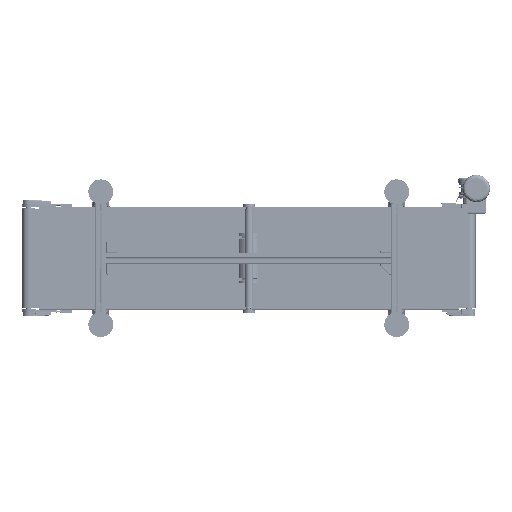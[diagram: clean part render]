
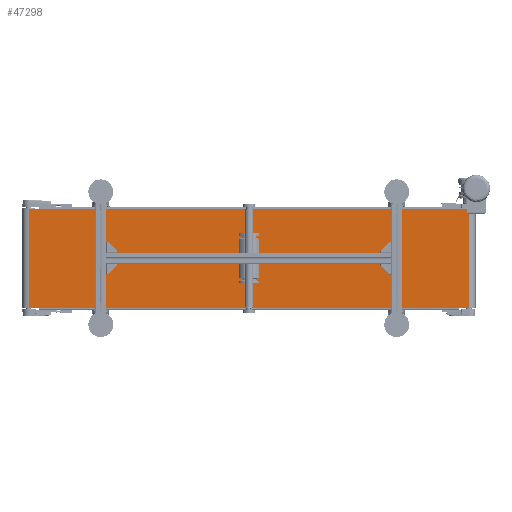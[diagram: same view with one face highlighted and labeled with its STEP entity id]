
A CAD part, front view. The second image highlights one B-rep face of the part: STEP entity #47298.
In plain terms, the highlighted planar face has unit normal (0, -1, 0).
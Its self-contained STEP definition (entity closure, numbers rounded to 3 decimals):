
#9144 = LINE ( 'NONE', #135931, #110215 ) ;
#18249 = VERTEX_POINT ( 'NONE', #90460 ) ;
#18617 = LINE ( 'NONE', #20963, #101285 ) ;
#19544 = DIRECTION ( 'NONE',  ( 1., 0., 0. ) ) ;
#20963 = CARTESIAN_POINT ( 'NONE',  ( -885., -27., 200. ) ) ;
#21173 = VECTOR ( 'NONE', #49709, 1000. ) ;
#35941 = CARTESIAN_POINT ( 'NONE',  ( 885., -27., 200. ) ) ;
#40034 = ORIENTED_EDGE ( 'NONE', *, *, #97671, .F. ) ;
#45311 = DIRECTION ( 'NONE',  ( 0., 0., -1. ) ) ;
#47298 = ADVANCED_FACE ( 'NONE', ( #72303 ), #130236, .F. ) ;
#48675 = EDGE_CURVE ( 'NONE', #18249, #134945, #113608, .T. ) ;
#49709 = DIRECTION ( 'NONE',  ( 1., 0., 0. ) ) ;
#68780 = ORIENTED_EDGE ( 'NONE', *, *, #197653, .T. ) ;
#72303 = FACE_OUTER_BOUND ( 'NONE', #135259, .T. ) ;
#74686 = CARTESIAN_POINT ( 'NONE',  ( -885., -27., 200. ) ) ;
#90460 = CARTESIAN_POINT ( 'NONE',  ( -885., -27., 200. ) ) ;
#90705 = CARTESIAN_POINT ( 'NONE',  ( -885., -27., -200. ) ) ;
#94050 = VECTOR ( 'NONE', #19544, 1000. ) ;
#95644 = EDGE_CURVE ( 'NONE', #175537, #165797, #104079, .T. ) ;
#97671 = EDGE_CURVE ( 'NONE', #134945, #165797, #9144, .T. ) ;
#97924 = CARTESIAN_POINT ( 'NONE',  ( -885., -27., 200. ) ) ;
#101285 = VECTOR ( 'NONE', #167023, 1000. ) ;
#101841 = AXIS2_PLACEMENT_3D ( 'NONE', #74686, #109724, #108546 ) ;
#104079 = LINE ( 'NONE', #90705, #21173 ) ;
#108546 = DIRECTION ( 'NONE',  ( 0., 0., 1. ) ) ;
#109724 = DIRECTION ( 'NONE',  ( 0., 1., 0. ) ) ;
#110215 = VECTOR ( 'NONE', #45311, 1000. ) ;
#113608 = LINE ( 'NONE', #97924, #94050 ) ;
#130236 = PLANE ( 'NONE',  #101841 ) ;
#134945 = VERTEX_POINT ( 'NONE', #35941 ) ;
#135259 = EDGE_LOOP ( 'NONE', ( #201643, #40034, #205176, #68780 ) ) ;
#135931 = CARTESIAN_POINT ( 'NONE',  ( 885., -27., 200. ) ) ;
#143411 = CARTESIAN_POINT ( 'NONE',  ( 885., -27., -200. ) ) ;
#156446 = CARTESIAN_POINT ( 'NONE',  ( -885., -27., -200. ) ) ;
#165797 = VERTEX_POINT ( 'NONE', #143411 ) ;
#167023 = DIRECTION ( 'NONE',  ( 0., 0., -1. ) ) ;
#175537 = VERTEX_POINT ( 'NONE', #156446 ) ;
#197653 = EDGE_CURVE ( 'NONE', #18249, #175537, #18617, .T. ) ;
#201643 = ORIENTED_EDGE ( 'NONE', *, *, #95644, .T. ) ;
#205176 = ORIENTED_EDGE ( 'NONE', *, *, #48675, .F. ) ;
